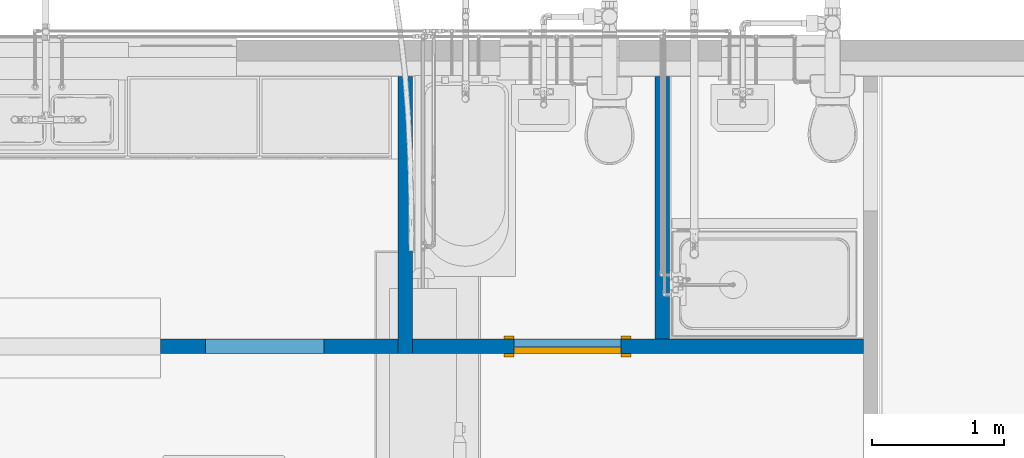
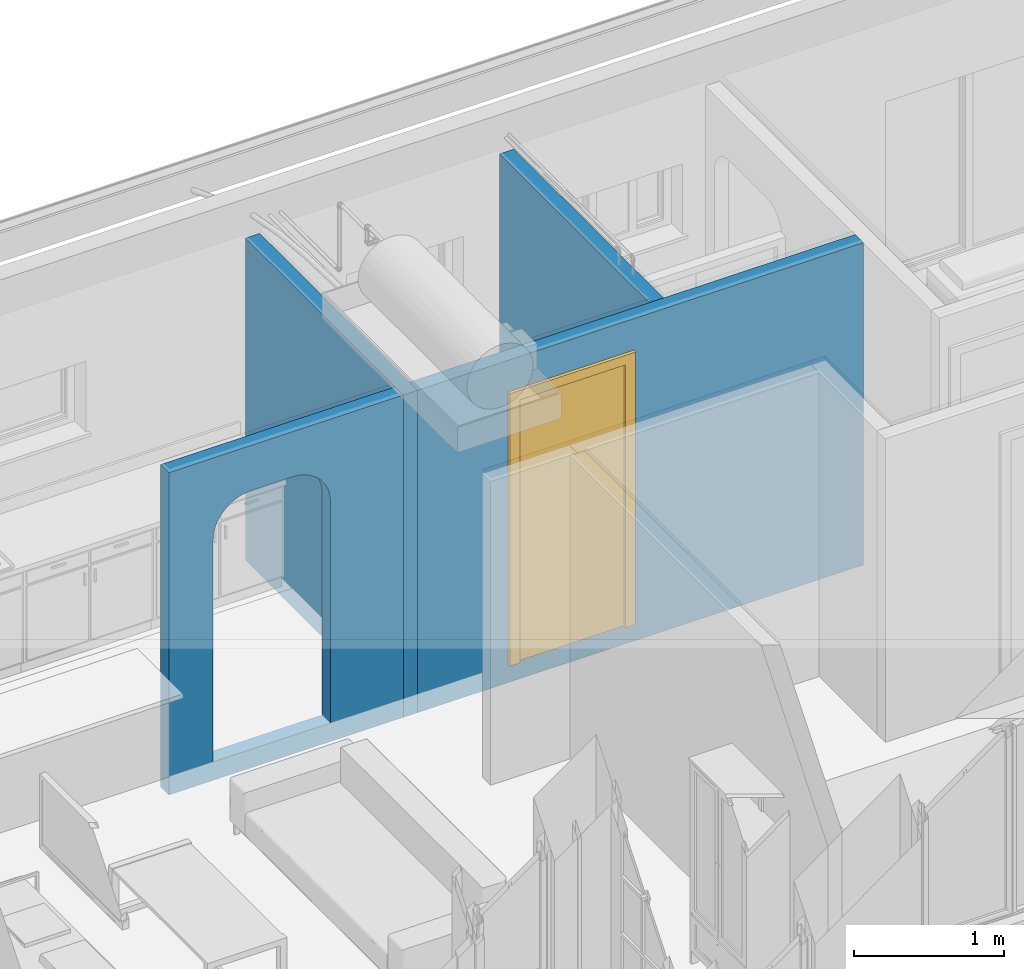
# One storey, part 4 of 41: 4 walls, 1 door, 2 openings.
"""IFC2X3 building model written with IfcOpenShell, lengths in millimetres."""

from ifc_helpers import new_model, entity, si_unit, converted_unit, derived_unit, direction, frame, frame_2d, origin, origin_2d_with_axis, place, context, subcontext, project, spatial, polyline, circle_curve, parameter, trimmed, segment, composite_curve, rectangle, outline, extrude, source, transform, mapped, material, material_list, layer, layer_set, layer_usage, type_object, type_shapes, element, fill, save


model = new_model("IFC2X3")

# Units and contexts
model_context = context("Model", 3, precision=0.01, world=origin(), true_north=direction((6.12303176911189e-17, 1.0)))
body_context = subcontext(model_context, "Body", "Model", "MODEL_VIEW")
ifc_project = project(units=[si_unit("LENGTHUNIT", "METRE", prefix="MILLI"), si_unit("AREAUNIT", "SQUARE_METRE"), si_unit("VOLUMEUNIT", "CUBIC_METRE"), converted_unit("PLANEANGLEUNIT", "DEGREE", entity("IfcRatioMeasure", 0.0174532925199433), si_unit("PLANEANGLEUNIT", "RADIAN"), dimensions=[0, 0, 0, 0, 0, 0, 0]), si_unit("MASSUNIT", "GRAM", prefix="KILO"), derived_unit("MASSDENSITYUNIT", [(si_unit("MASSUNIT", "GRAM", prefix="KILO"), 1), (si_unit("LENGTHUNIT", "METRE"), -3)]), si_unit("TIMEUNIT", "SECOND"), si_unit("FREQUENCYUNIT", "HERTZ"), si_unit("THERMODYNAMICTEMPERATUREUNIT", "DEGREE_CELSIUS"), derived_unit("THERMALTRANSMITTANCEUNIT", [(si_unit("MASSUNIT", "GRAM", prefix="KILO"), 1), (si_unit("THERMODYNAMICTEMPERATUREUNIT", "KELVIN"), -1), (si_unit("TIMEUNIT", "SECOND"), -3)]), derived_unit("VOLUMETRICFLOWRATEUNIT", [(si_unit("LENGTHUNIT", "METRE"), 3), (si_unit("TIMEUNIT", "SECOND"), -1)]), si_unit("ELECTRICCURRENTUNIT", "AMPERE"), si_unit("ELECTRICVOLTAGEUNIT", "VOLT"), si_unit("POWERUNIT", "WATT"), si_unit("FORCEUNIT", "NEWTON", prefix="KILO"), si_unit("ILLUMINANCEUNIT", "LUX"), si_unit("LUMINOUSFLUXUNIT", "LUMEN"), si_unit("LUMINOUSINTENSITYUNIT", "CANDELA"), derived_unit("USERDEFINED", [(si_unit("MASSUNIT", "GRAM", prefix="KILO"), -1), (si_unit("LENGTHUNIT", "METRE"), -2), (si_unit("TIMEUNIT", "SECOND"), 3), (si_unit("LUMINOUSFLUXUNIT", "LUMEN"), 1)]), derived_unit("LINEARVELOCITYUNIT", [(si_unit("LENGTHUNIT", "METRE"), 1), (si_unit("TIMEUNIT", "SECOND"), -1)]), si_unit("PRESSUREUNIT", "PASCAL"), derived_unit("USERDEFINED", [(si_unit("LENGTHUNIT", "METRE"), -2), (si_unit("MASSUNIT", "GRAM", prefix="KILO"), 1), (si_unit("TIMEUNIT", "SECOND"), -2)])], contexts=[model_context])

# Site, building, storey
site_placement = place(None, origin())
site = spatial("IfcSite", under=ifc_project, at=site_placement, Name="Surface", CompositionType="ELEMENT")
building_placement = place(site_placement, origin())
building = spatial("IfcBuilding", under=site, at=building_placement, CompositionType="ELEMENT")
storey_placement = place(building_placement, frame((0.0, 0.0, 300.0)))
storey = spatial("IfcBuildingStorey", under=building, at=storey_placement, Name="F.F.L", CompositionType="ELEMENT", Elevation=300.0)

# Wall
ifc_material_1 = material(Name="Brickwork - Facebrick (Plettenberg Autumn)")
ifc_layer = layer(ifc_material_1, 110.0)
ifc_layer_set = layer_set([ifc_layer], Name="Basic Wall:BrickWall - 110mm (Ext.F&Int.F)")
ifc_layer_usage_1 = layer_usage(ifc_layer_set, "AXIS2", "POSITIVE", -55.0)
wall_type = type_object("IfcWallType", Name="Basic Wall:BrickWall - 110mm (Ext.F&Int.F)", PredefinedType="STANDARD", material=ifc_layer_set)
wall_1_placement = place(storey_placement, frame((-4531.8751700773, 10545.8400891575, -150.0), z_axis=(0.0, 0.0, 1.0), x_axis=(0.0, -1.0, 0.0)))
element("IfcWallStandardCase", 1, at=wall_1_placement, inside=storey, type_object=wall_type, material=ifc_layer_usage_1, Name="Basic Wall:BrickWall - 110mm (Ext.F&Int.F)", ObjectType="Basic Wall:BrickWall - 110mm (Ext.F&Int.F)", context=body_context, shape_type="SweptSolid", body=[
    extrude(rectangle(XDim=2099.99999999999, YDim=110.0, at=frame_2d((1050.0, -7.105427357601e-15), x_axis=(-1.0, 0.0))), origin(), (0.0, 0.0, 1.0), 2615.0),
])

# Wall, opening
ifc_layer_usage_2 = layer_usage(ifc_layer_set, "AXIS2", "NEGATIVE", 55.0)
wall_2_placement = place(storey_placement, frame((-4586.87517007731, 8500.8400891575, -150.0), z_axis=(0.0, 0.0, 1.0), x_axis=(-1.0, 0.0, 0.0)))
wall_2 = element("IfcWallStandardCase", 2, at=wall_2_placement, inside=storey, type_object=wall_type, material=ifc_layer_usage_2, Name="Basic Wall:BrickWall - 110mm (Ext.F&Int.F)", ObjectType="Basic Wall:BrickWall - 110mm (Ext.F&Int.F)", context=body_context, shape_type="SweptSolid", body=[
    extrude(rectangle(XDim=1800.0, YDim=110.000000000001, at=frame_2d((900.000000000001, 0.0), x_axis=(-1.0, 0.0))), origin(), (0.0, 0.0, 1.0), 2615.0),
])
opening_1_placement = place(wall_2_placement, origin())
element("IfcOpeningElement", 3, at=opening_1_placement, cuts=wall_2, Name="Basic Wall:BrickWall - 110mm (Ext.F&Int.F)", ObjectType="Opening", context=body_context, shape_type="SweptSolid", body=[
    extrude(outline(composite_curve([segment(polyline([(-450.0, -1300.0), (450.0, -1300.0)]), True, "CONTINUOUS"), segment(polyline([(450.0, -1300.0), (450.0, 500.0)]), True, "CONTINUOUS"), segment(trimmed(circle_curve(frame_2d((150.0, 500.0), x_axis=(-1.0, 0.0)), 299.999999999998), [parameter(180.0)], [parameter(270.0)], True, "PARAMETER"), True, "CONTINUOUS"), segment(polyline([(150.0, 800.0), (-150.0, 800.0)]), True, "CONTINUOUS"), segment(trimmed(circle_curve(frame_2d((-150.0, 500.0), x_axis=(-1.0, 0.0)), 300.000000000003), [parameter(270.0)], [parameter(0.0)], True, "PARAMETER"), True, "CONTINUOUS"), segment(polyline([(-450.0, 500.0), (-450.0, -1300.0)]), True, "CONTINUOUS")], self_intersect=False)), frame((1010.0, 55.0, 1450.0), z_axis=(0.0, -1.0, 0.0), x_axis=(1.0, 0.0, 0.0)), (0.0, 0.0, 1.0), 110.0),
])

# Wall, opening, door
ifc_layer_usage_3 = layer_usage(ifc_layer_set, "AXIS2", "POSITIVE", -55.0)
wall_3_placement = place(storey_placement, frame((-4476.87517007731, 8500.8400891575, -150.0)))
wall_3 = element("IfcWallStandardCase", 4, at=wall_3_placement, inside=storey, type_object=wall_type, material=ifc_layer_usage_3, Name="Basic Wall:BrickWall - 110mm (Ext.F&Int.F)", ObjectType="Basic Wall:BrickWall - 110mm (Ext.F&Int.F)", context=body_context, shape_type="SweptSolid", body=[
    extrude(rectangle(XDim=3420.0, YDim=110.000000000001, at=frame_2d((1710.0, -6.75015598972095e-14), x_axis=(-1.0, 0.0))), origin(), (0.0, 0.0, 1.0), 2615.0),
])
opening_2_placement = place(wall_3_placement, frame((1581.5, 55.0, 150.0)))
opening_2 = element("IfcOpeningElement", 5, at=opening_2_placement, cuts=wall_3, Name="M_Single-Flush:0813 x 2134mm:1", ObjectType="Opening", context=body_context, shape_type="SweptSolid", body=[
    extrude(rectangle(XDim=813.0, YDim=2134.0, at=frame_2d((1067.0, 406.5), x_axis=(0.0, 1.0))), frame((0.0, 0.0, 0.0), z_axis=(0.0, -1.0, 0.0), x_axis=(0.0, 0.0, 1.0)), (0.0, 0.0, 1.0), 110.0),
])
ifc_material_2 = material(Name="Door - Frame")
ifc_material_3 = material(Name="Door - Panel")
ifc_material_list_1 = material_list([ifc_material_2, ifc_material_3])
ifc_material_list_2 = material_list([ifc_material_2, ifc_material_3])
door_style = type_object("IfcDoorStyle", Name="0813 x 2134mm", ConstructionType="NOTDEFINED", OperationType="SINGLE_SWING_RIGHT", ParameterTakesPrecedence=False, Sizeable=False, material=ifc_material_list_2)
shared_shape = source(origin(), body_context, "Body", "SweptSolid", [
    extrude(outline(polyline([(-482.5, -1124.0), (482.5, -1124.0), (482.5, 1086.0), (406.5, 1086.0), (406.5, -1048.0), (-406.5, -1048.0), (-406.5, 1086.0), (-482.5, 1086.0), (-482.5, -1124.0)])), frame((406.500000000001, 110.0, 1086.0), z_axis=(0.0, 1.0, 0.0), x_axis=(1.0, 0.0, 0.0)), (0.0, 0.0, 1.0), 24.9999999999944),
    extrude(outline(polyline([(-1124.0, -482.499999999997), (1086.0, -482.499999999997), (1086.0, -406.500000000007), (-1048.0, -406.500000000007), (-1048.0, 406.500000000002), (1086.0, 406.500000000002), (1086.0, 482.500000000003), (-1124.0, 482.500000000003), (-1124.0, -482.499999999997)])), frame((406.500000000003, -25.0, 1086.0), z_axis=(0.0, 1.0, 0.0), x_axis=(0.0, 0.0, -1.0)), (0.0, 0.0, 1.0), 25.0000000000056),
    extrude(rectangle(XDim=51.0, YDim=813.0, at=origin_2d_with_axis()), frame((406.500000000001, 84.5000000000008, 0.0), z_axis=(0.0, 0.0, 1.0), x_axis=(0.0, 1.0, 0.0)), (0.0, 0.0, 1.0), 2134.0),
])
type_shapes(door_style, [shared_shape])
door_placement = place(opening_2_placement, frame((0.0, 0.0, 0.0), z_axis=(0.0, 0.0, 1.0), x_axis=(-1.0, 0.0, 0.0)))
door = element("IfcDoor", 6, at=door_placement, inside=storey, type_object=door_style, material=ifc_material_list_1, Name="M_Single-Flush:0813 x 2134mm", ObjectType="0813 x 2134mm", OverallHeight=2134.0, OverallWidth=813.0, context=body_context, shape_type="MappedRepresentation", body=[
    mapped(shared_shape, transform((0.0, 0.0, 0.0), scale=1.0)),
])
fill(opening_2, door)

# Wall
ifc_layer_usage_4 = layer_usage(ifc_layer_set, "AXIS2", "NEGATIVE", 55.0)
wall_4_placement = place(storey_placement, frame((-2581.87517007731, 8555.8400891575, -150.0), z_axis=(0.0, 0.0, 1.0), x_axis=(0.0, 1.0, 0.0)))
element("IfcWallStandardCase", 7, at=wall_4_placement, inside=storey, type_object=wall_type, material=ifc_layer_usage_4, Name="Basic Wall:BrickWall - 110mm (Ext.F&Int.F)", ObjectType="Basic Wall:BrickWall - 110mm (Ext.F&Int.F)", context=body_context, shape_type="SweptSolid", body=[
    extrude(rectangle(XDim=1989.99999999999, YDim=110.0, at=frame_2d((994.999999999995, -8.5265128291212e-14), x_axis=(-1.0, 0.0))), origin(), (0.0, 0.0, 1.0), 2615.0),
])

save(model, "model.ifc")
